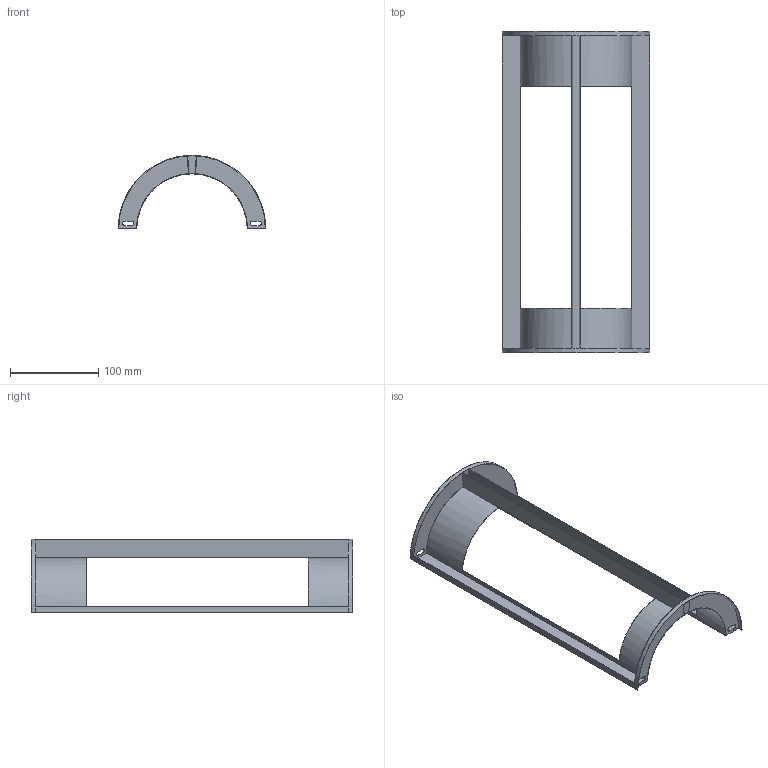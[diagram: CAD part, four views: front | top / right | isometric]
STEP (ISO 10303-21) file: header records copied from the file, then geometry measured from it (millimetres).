
FILE_DESCRIPTION(/* description */ (''),/* implementation_level */ '2;1');
FILE_NAME(/* name */ '2504_ePic_frameL0toL1.stp',/* time_stamp */ '2025-05-05T16:18:34+02:00',/* author */ (''),/* organization */ (''),/* preprocessor_version */ 'ST-DEVELOPER v19.4',/* originating_system */ 'SIEMENS PLM Software NX2306.5001',/* authorisation */ '');
FILE_SCHEMA (('AP203_CONFIGURATION_CONTROLLED_3D_DESIGN_OF_MECHANICAL_PARTS_AND_ASSEMBLIES_MIM_LF { 1 0 10303 403 2 1 2}'));
Length unit declared in the file: millimetre
Products named in the file (1): ePic-Frame_L0toL1-Cilinder.v10_dwg_objects
Bounding box: 167 x 364 x 83 mm (x, y, z)
Volume: 35049.7 mm3; surface area: 141512.1 mm2
Topology: 1 solids, 1 shells, 53 faces, 148 edges, 96 vertices
Faces by surface type: plane 36, cylinder 17
Entity records: 1820 total; most frequent: CARTESIAN_POINT 310, DIRECTION 300, ORIENTED_EDGE 296, EDGE_CURVE 148, AXIS2_PLACEMENT_3D 102, LINE 96, VECTOR 96, VERTEX_POINT 96
